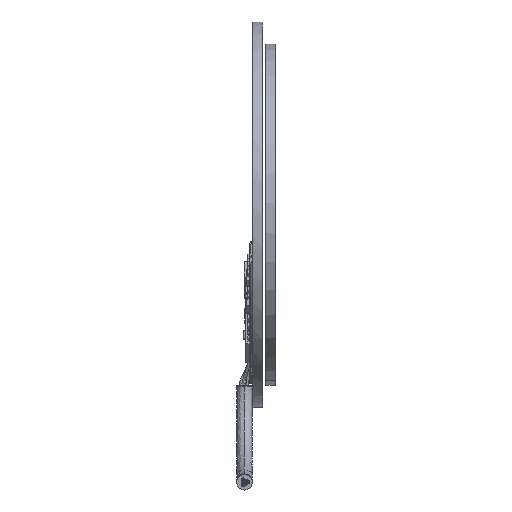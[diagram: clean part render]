
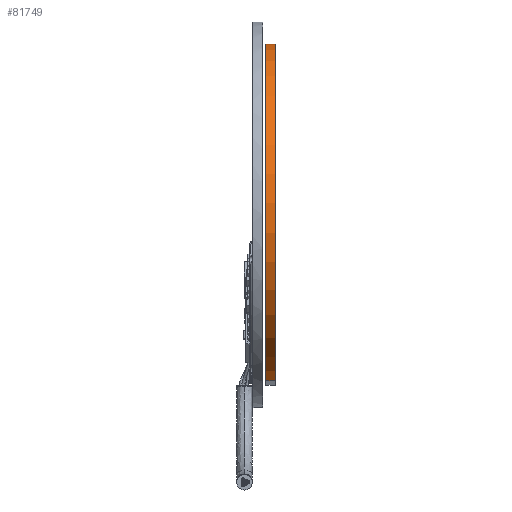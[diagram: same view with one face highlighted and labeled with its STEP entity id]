
A CAD part, left-side view. The second image highlights one B-rep face of the part: STEP entity #81749.
In plain terms, the highlighted cylindrical face has radius 35.5 mm (diameter 71 mm), a partial arc.
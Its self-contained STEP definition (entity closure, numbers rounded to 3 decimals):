
#14045 = CARTESIAN_POINT ( 'NONE',  ( 0., 0., 0. ) ) ;
#16663 = DIRECTION ( 'NONE',  ( 0., 0., -1. ) ) ;
#27364 = ORIENTED_EDGE ( 'NONE', *, *, #97007, .T. ) ;
#28748 = LINE ( 'NONE', #99439, #46204 ) ;
#31381 = LINE ( 'NONE', #173854, #219503 ) ;
#39425 = AXIS2_PLACEMENT_3D ( 'NONE', #137374, #226695, #149725 ) ;
#46204 = VECTOR ( 'NONE', #206153, 1000. ) ;
#69789 = VERTEX_POINT ( 'NONE', #112430 ) ;
#81749 = ADVANCED_FACE ( 'NONE', ( #211412 ), #138305, .T. ) ;
#97007 = EDGE_CURVE ( 'NONE', #226266, #208190, #108496, .T. ) ;
#99410 = CARTESIAN_POINT ( 'NONE',  ( 0., 0., -35.5 ) ) ;
#99439 = CARTESIAN_POINT ( 'NONE',  ( 0., 1.97, -35.5 ) ) ;
#104657 = ORIENTED_EDGE ( 'NONE', *, *, #183435, .T. ) ;
#108496 = CIRCLE ( 'NONE', #219577, 35.5 ) ;
#112430 = CARTESIAN_POINT ( 'NONE',  ( 0., 1.97, 35.5 ) ) ;
#120962 = DIRECTION ( 'NONE',  ( 0., -1., 0. ) ) ;
#137374 = CARTESIAN_POINT ( 'NONE',  ( 0., 1.97, 0. ) ) ;
#138305 = CYLINDRICAL_SURFACE ( 'NONE', #171404, 35.5 ) ;
#139087 = DIRECTION ( 'NONE',  ( 0., 0., 1. ) ) ;
#139316 = CIRCLE ( 'NONE', #39425, 35.5 ) ;
#140200 = DIRECTION ( 'NONE',  ( 0., -1., 0. ) ) ;
#149103 = EDGE_LOOP ( 'NONE', ( #186156, #222479, #104657, #27364 ) ) ;
#149155 = CARTESIAN_POINT ( 'NONE',  ( 0., 0., 35.5 ) ) ;
#149725 = DIRECTION ( 'NONE',  ( 0., 0., 1. ) ) ;
#150246 = VERTEX_POINT ( 'NONE', #194976 ) ;
#169543 = EDGE_CURVE ( 'NONE', #69789, #208190, #31381, .T. ) ;
#171404 = AXIS2_PLACEMENT_3D ( 'NONE', #209172, #120962, #16663 ) ;
#173854 = CARTESIAN_POINT ( 'NONE',  ( 0., 1.97, 35.5 ) ) ;
#175349 = EDGE_CURVE ( 'NONE', #150246, #69789, #139316, .T. ) ;
#183435 = EDGE_CURVE ( 'NONE', #150246, #226266, #28748, .T. ) ;
#186156 = ORIENTED_EDGE ( 'NONE', *, *, #169543, .F. ) ;
#193608 = DIRECTION ( 'NONE',  ( 0., 1., 0. ) ) ;
#194976 = CARTESIAN_POINT ( 'NONE',  ( 0., 1.97, -35.5 ) ) ;
#206153 = DIRECTION ( 'NONE',  ( 0., -1., 0. ) ) ;
#208190 = VERTEX_POINT ( 'NONE', #149155 ) ;
#209172 = CARTESIAN_POINT ( 'NONE',  ( 0., 1.97, 0. ) ) ;
#211412 = FACE_OUTER_BOUND ( 'NONE', #149103, .T. ) ;
#219503 = VECTOR ( 'NONE', #140200, 1000. ) ;
#219577 = AXIS2_PLACEMENT_3D ( 'NONE', #14045, #193608, #139087 ) ;
#222479 = ORIENTED_EDGE ( 'NONE', *, *, #175349, .F. ) ;
#226266 = VERTEX_POINT ( 'NONE', #99410 ) ;
#226695 = DIRECTION ( 'NONE',  ( 0., 1., 0. ) ) ;
